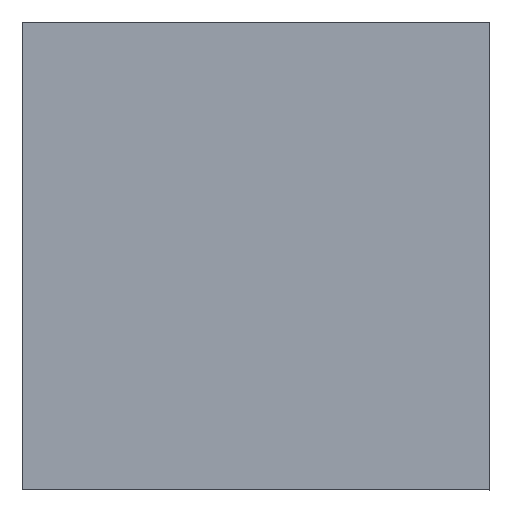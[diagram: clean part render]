
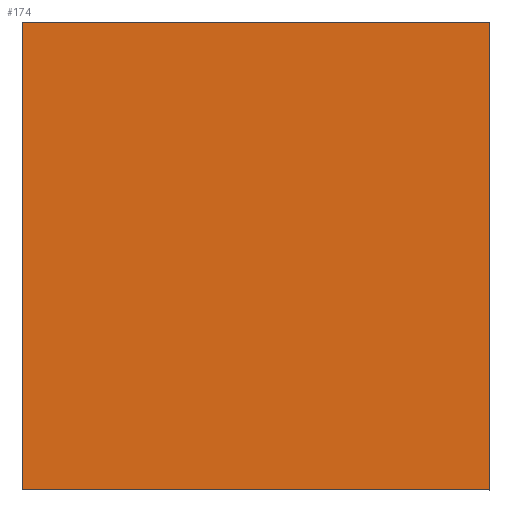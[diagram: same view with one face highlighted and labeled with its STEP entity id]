
A CAD part, top view. The second image highlights one B-rep face of the part: STEP entity #174.
In plain terms, the highlighted planar face has unit normal (0, 0, 1).
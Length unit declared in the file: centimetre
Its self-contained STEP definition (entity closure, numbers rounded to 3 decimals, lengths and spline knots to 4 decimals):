
#5 = CARTESIAN_POINT ( 'NONE',  ( 0., 1000., 1000. ) ) ;
#17 = CARTESIAN_POINT ( 'NONE',  ( 1000., 1000., 1000. ) ) ;
#22 = EDGE_LOOP ( 'NONE', ( #342, #255, #225, #266 ) ) ;
#56 = VERTEX_POINT ( 'NONE', #596 ) ;
#102 = CARTESIAN_POINT ( 'NONE',  ( 0., 1000., 1000. ) ) ;
#133 = VECTOR ( 'NONE', #289, 100. ) ;
#140 = FACE_OUTER_BOUND ( 'NONE', #22, .T. ) ;
#154 = EDGE_CURVE ( 'NONE', #677, #403, #176, .T. ) ;
#174 = ADVANCED_FACE ( 'NONE', ( #140 ), #232, .T. ) ;
#176 = LINE ( 'NONE', #287, #664 ) ;
#202 = LINE ( 'NONE', #102, #249 ) ;
#225 = ORIENTED_EDGE ( 'NONE', *, *, #526, .T. ) ;
#232 = PLANE ( 'NONE',  #464 ) ;
#238 = EDGE_CURVE ( 'NONE', #403, #400, #202, .T. ) ;
#243 = DIRECTION ( 'NONE',  ( -1., 0., 0. ) ) ;
#249 = VECTOR ( 'NONE', #612, 100. ) ;
#255 = ORIENTED_EDGE ( 'NONE', *, *, #374, .T. ) ;
#266 = ORIENTED_EDGE ( 'NONE', *, *, #154, .T. ) ;
#276 = DIRECTION ( 'NONE',  ( 1., 0., 0. ) ) ;
#285 = VECTOR ( 'NONE', #276, 100. ) ;
#287 = CARTESIAN_POINT ( 'NONE',  ( 0., 1000., 1000. ) ) ;
#289 = DIRECTION ( 'NONE',  ( 0., 1., 0. ) ) ;
#329 = CARTESIAN_POINT ( 'NONE',  ( 0., 0., 1000. ) ) ;
#341 = DIRECTION ( 'NONE',  ( 0., 0., 1. ) ) ;
#342 = ORIENTED_EDGE ( 'NONE', *, *, #238, .T. ) ;
#374 = EDGE_CURVE ( 'NONE', #400, #56, #382, .T. ) ;
#382 = LINE ( 'NONE', #529, #285 ) ;
#400 = VERTEX_POINT ( 'NONE', #329 ) ;
#403 = VERTEX_POINT ( 'NONE', #5 ) ;
#464 = AXIS2_PLACEMENT_3D ( 'NONE', #652, #341, #503 ) ;
#503 = DIRECTION ( 'NONE',  ( 1., 0., 0. ) ) ;
#526 = EDGE_CURVE ( 'NONE', #56, #677, #606, .T. ) ;
#529 = CARTESIAN_POINT ( 'NONE',  ( 0., 0., 1000. ) ) ;
#569 = CARTESIAN_POINT ( 'NONE',  ( 1000., 1000., 1000. ) ) ;
#596 = CARTESIAN_POINT ( 'NONE',  ( 1000., 0., 1000. ) ) ;
#606 = LINE ( 'NONE', #17, #133 ) ;
#612 = DIRECTION ( 'NONE',  ( 0., -1., 0. ) ) ;
#652 = CARTESIAN_POINT ( 'NONE',  ( 0., 0., 1000. ) ) ;
#664 = VECTOR ( 'NONE', #243, 100. ) ;
#677 = VERTEX_POINT ( 'NONE', #569 ) ;
